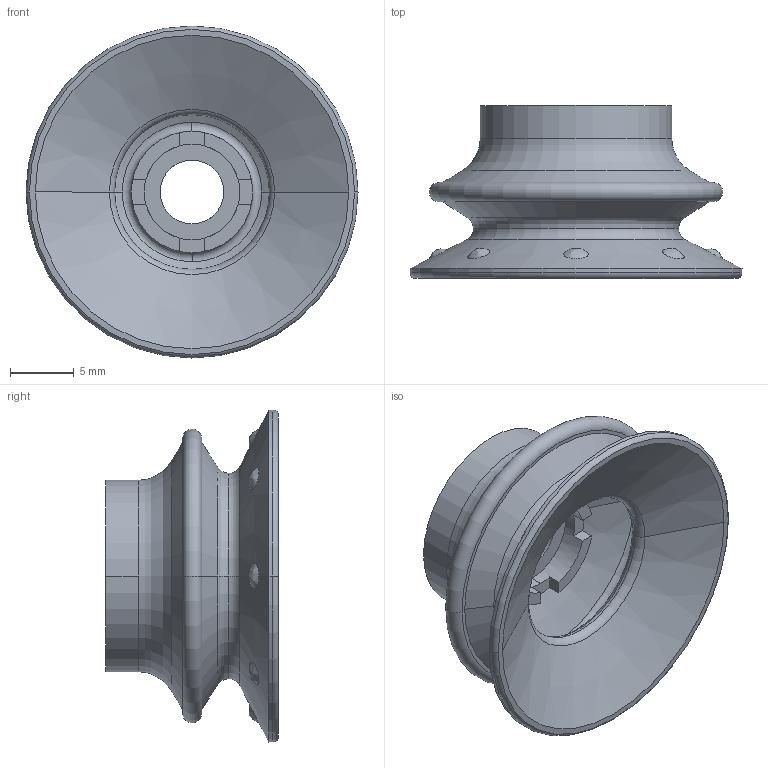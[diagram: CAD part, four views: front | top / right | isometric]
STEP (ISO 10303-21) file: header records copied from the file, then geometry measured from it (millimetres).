
FILE_DESCRIPTION (( 'STEP AP214' ), '1' );
FILE_NAME ('SB25P-60G.STEP', '2026-03-17T14:47:59', ( '' ), ( '' ), 'SwSTEP 2.0', 'SolidWorks 2025', '' );
FILE_SCHEMA (( 'AUTOMOTIVE_DESIGN' ));
Length unit declared in the file: millimetre
Products named in the file (1): SB25P-60G
Bounding box: 26 x 13.52 x 26 mm (x, y, z)
Volume: 1699.5 mm3; surface area: 2602 mm2
Topology: 1 solids, 1 shells, 73 faces, 174 edges, 112 vertices
Faces by surface type: torus 21, plane 21, cylinder 12, cone 11, bspline 8
Entity records: 2851 total; most frequent: CARTESIAN_POINT 1110, DIRECTION 384, ORIENTED_EDGE 344, EDGE_CURVE 172, AXIS2_PLACEMENT_3D 164, VERTEX_POINT 112, CIRCLE 98, EDGE_LOOP 86
